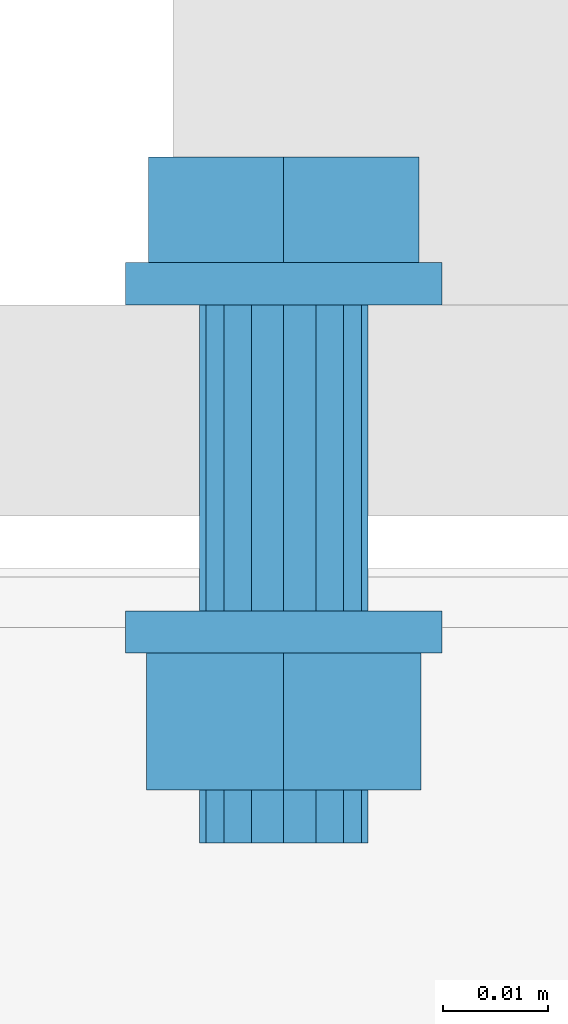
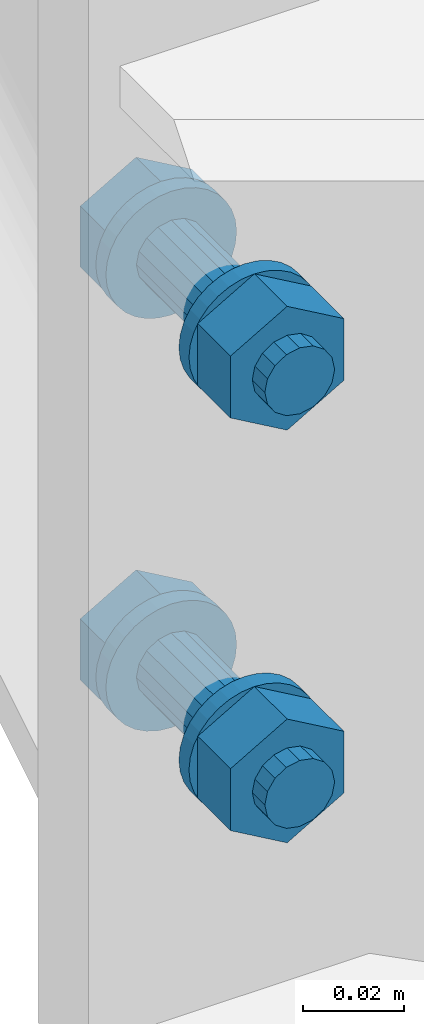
# One storey, part 11 of 21: 2 mechanical fasteners.
"""IFC4X3_ADD2 building model written with IfcOpenShell, lengths in millimetres."""

from ifc_helpers import new_model, entity, si_unit, converted_unit, derived_unit, direction, frame, origin, place, context, project, spatial, faceted_brep, element, save


model = new_model("IFC4X3_ADD2")

# Units and contexts
model_context = context("Model", 3, precision=0.01, world=origin(), true_north=direction((6.123233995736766e-17, 1.0)))
plan_context = context("Plan", 3, precision=0.01, world=origin(), true_north=direction((6.123233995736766e-17, 1.0)))
ifc_project = project(units=[si_unit("LENGTHUNIT", "METRE", prefix="MILLI"), converted_unit("PLANEANGLEUNIT", "DEGREE", entity("IfcPlaneAngleMeasure", 0.017453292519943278), si_unit("PLANEANGLEUNIT", "RADIAN"), dimensions=[0, 0, 0, 0, 0, 0, 0]), si_unit("AREAUNIT", "SQUARE_METRE"), si_unit("VOLUMEUNIT", "CUBIC_METRE"), derived_unit("THERMALTRANSMITTANCEUNIT", [(si_unit("MASSUNIT", "GRAM", prefix="KILO"), 1), (si_unit("THERMODYNAMICTEMPERATUREUNIT", "KELVIN"), -1), (si_unit("TIMEUNIT", "SECOND"), -3)]), derived_unit("USERDEFINED", [(si_unit("MASSUNIT", "GRAM", prefix="KILO"), 1), (si_unit("THERMODYNAMICTEMPERATUREUNIT", "KELVIN"), -1), (si_unit("TIMEUNIT", "SECOND"), -2)]), derived_unit("THERMALRESISTANCEUNIT", [(si_unit("MASSUNIT", "GRAM", prefix="KILO"), -1), (si_unit("TIMEUNIT", "SECOND"), 3), (si_unit("THERMODYNAMICTEMPERATUREUNIT", "KELVIN"), 1)]), si_unit("MASSUNIT", "GRAM", prefix="KILO"), derived_unit("MOMENTOFINERTIAUNIT", [(si_unit("LENGTHUNIT", "METRE"), 4)]), derived_unit("LINEARFORCEUNIT", [(si_unit("MASSUNIT", "GRAM", prefix="KILO"), 1), (si_unit("TIMEUNIT", "SECOND"), -2)]), derived_unit("WARPINGCONSTANTUNIT", [(si_unit("LENGTHUNIT", "METRE"), 6)]), si_unit("PRESSUREUNIT", "PASCAL"), derived_unit("MASSDENSITYUNIT", [(si_unit("MASSUNIT", "GRAM", prefix="KILO"), 1), (si_unit("LENGTHUNIT", "METRE"), -3)]), derived_unit("MODULUSOFELASTICITYUNIT", [(si_unit("MASSUNIT", "GRAM", prefix="KILO"), 1), (si_unit("TIMEUNIT", "SECOND"), -2), (si_unit("LENGTHUNIT", "METRE"), -1)]), derived_unit("THERMALEXPANSIONCOEFFICIENTUNIT", [(si_unit("THERMODYNAMICTEMPERATUREUNIT", "KELVIN"), -1)]), derived_unit("VAPORPERMEABILITYUNIT", [(si_unit("LENGTHUNIT", "METRE"), -1), (si_unit("TIMEUNIT", "SECOND"), 1)]), derived_unit("USERDEFINED", [(si_unit("MASSUNIT", "GRAM", prefix="KILO"), 1), (si_unit("TIMEUNIT", "SECOND"), -3), (si_unit("LENGTHUNIT", "METRE"), 3), (si_unit("ELECTRICCURRENTUNIT", "AMPERE"), -2)]), derived_unit("SPECIFICHEATCAPACITYUNIT", [(si_unit("THERMODYNAMICTEMPERATUREUNIT", "KELVIN"), -1), (si_unit("TIMEUNIT", "SECOND"), -2), (si_unit("LENGTHUNIT", "METRE"), 2)]), derived_unit("THERMALCONDUCTANCEUNIT", [(si_unit("MASSUNIT", "GRAM", prefix="KILO"), 1), (si_unit("THERMODYNAMICTEMPERATUREUNIT", "KELVIN"), -1), (si_unit("TIMEUNIT", "SECOND"), -3), (si_unit("LENGTHUNIT", "METRE"), 1)])], contexts=[model_context, plan_context])

# Site, building, storey
site_placement = place(None, origin())
site = spatial("IfcSite", under=ifc_project, at=site_placement, Name="Default", CompositionType="ELEMENT")
building_placement = place(site_placement, origin())
building = spatial("IfcBuilding", under=site, at=building_placement, Name="Complex structure", CompositionType="ELEMENT")
storey_placement = place(building_placement, frame((0.0, 0.0, 3000.0)))
storey = spatial("IfcBuildingStorey", under=building, at=storey_placement, Name="Level 01", CompositionType="ELEMENT", Elevation=3000.0)

# Mechanical fasteners
mechanical_fastener_1_placement = place(storey_placement, frame((0.0, 0.0, -3000.0)))
element("IfcMechanicalFastener", 1, at=mechanical_fastener_1_placement, inside=storey, ObjectType="Bolt#5", NominalDiameter=16.0, NominalLength=55.0, context=model_context, shape_type="Brep", body=[
    faceted_brep([(-9180.026350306, -1182.866703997, 3703.0), (-9180.026350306, -1186.866703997, 3703.0), (-9180.3145711, -1186.866703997, 3700.07364517), (-9180.3145711, -1182.866703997, 3700.07364517), (-9181.168157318, -1186.866703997, 3697.259748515), (-9181.168157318, -1182.866703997, 3697.259748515), (-9182.554306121, -1186.866703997, 3694.666446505), (-9182.554306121, -1182.866703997, 3694.666446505), (-9184.419748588, -1186.866703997, 3692.393398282), (-9184.419748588, -1182.866703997, 3692.393398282), (-9186.692796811, -1186.866703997, 3690.527955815), (-9186.692796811, -1182.866703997, 3690.527955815), (-9189.28609882, -1186.866703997, 3689.141807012), (-9189.28609882, -1182.866703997, 3689.141807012), (-9192.099995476, -1186.866703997, 3688.288220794), (-9192.099995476, -1182.866703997, 3688.288220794), (-9195.026350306, -1186.866703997, 3688.0), (-9195.026350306, -1182.866703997, 3688.0), (-9197.952705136, -1186.866703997, 3688.288220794), (-9197.952705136, -1182.866703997, 3688.288220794), (-9200.766601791, -1186.866703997, 3689.141807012), (-9200.766601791, -1182.866703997, 3689.141807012), (-9203.359903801, -1186.866703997, 3690.527955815), (-9203.359903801, -1182.866703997, 3690.527955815), (-9205.632952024, -1186.866703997, 3692.393398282), (-9205.632952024, -1182.866703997, 3692.393398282), (-9207.49839449, -1186.866703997, 3694.666446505), (-9207.49839449, -1182.866703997, 3694.666446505), (-9208.884543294, -1186.866703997, 3697.259748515), (-9208.884543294, -1182.866703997, 3697.259748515), (-9209.738129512, -1186.866703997, 3700.07364517), (-9209.738129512, -1182.866703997, 3700.07364517), (-9210.026350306, -1186.866703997, 3703.0), (-9210.026350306, -1182.866703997, 3703.0), (-9209.738129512, -1186.866703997, 3705.92635483), (-9209.738129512, -1182.866703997, 3705.92635483), (-9208.884543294, -1186.866703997, 3708.740251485), (-9208.884543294, -1182.866703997, 3708.740251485), (-9207.49839449, -1186.866703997, 3711.333553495), (-9207.49839449, -1182.866703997, 3711.333553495), (-9205.632952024, -1186.866703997, 3713.606601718), (-9205.632952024, -1182.866703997, 3713.606601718), (-9203.359903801, -1186.866703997, 3715.472044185), (-9203.359903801, -1182.866703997, 3715.472044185), (-9200.766601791, -1186.866703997, 3716.858192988), (-9200.766601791, -1182.866703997, 3716.858192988), (-9197.952705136, -1186.866703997, 3717.711779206), (-9197.952705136, -1182.866703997, 3717.711779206), (-9195.026350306, -1186.866703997, 3718.0), (-9195.026350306, -1182.866703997, 3718.0), (-9192.099995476, -1186.866703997, 3717.711779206), (-9192.099995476, -1182.866703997, 3717.711779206), (-9189.28609882, -1186.866703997, 3716.858192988), (-9189.28609882, -1182.866703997, 3716.858192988), (-9186.692796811, -1186.866703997, 3715.472044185), (-9186.692796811, -1182.866703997, 3715.472044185), (-9184.419748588, -1186.866703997, 3713.606601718), (-9184.419748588, -1182.866703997, 3713.606601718), (-9182.554306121, -1186.866703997, 3711.333553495), (-9182.554306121, -1182.866703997, 3711.333553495), (-9181.168157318, -1186.866703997, 3708.740251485), (-9181.168157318, -1182.866703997, 3708.740251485), (-9180.3145711, -1186.866703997, 3705.92635483), (-9180.3145711, -1182.866703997, 3705.92635483)], [[[0, 1, 2, 3]], [[3, 2, 4, 5]], [[5, 4, 6, 7]], [[7, 6, 8, 9]], [[9, 8, 10, 11]], [[11, 10, 12, 13]], [[13, 12, 14, 15]], [[15, 14, 16, 17]], [[17, 16, 18, 19]], [[19, 18, 20, 21]], [[21, 20, 22, 23]], [[23, 22, 24, 25]], [[25, 24, 26, 27]], [[27, 26, 28, 29]], [[29, 28, 30, 31]], [[31, 30, 32, 33]], [[33, 32, 34, 35]], [[35, 34, 36, 37]], [[37, 36, 38, 39]], [[39, 38, 40, 41]], [[41, 40, 42, 43]], [[43, 42, 44, 45]], [[45, 44, 46, 47]], [[47, 46, 48, 49]], [[49, 48, 50, 51]], [[51, 50, 52, 53]], [[53, 52, 54, 55]], [[55, 54, 56, 57]], [[57, 56, 58, 59]], [[59, 58, 60, 61]], [[61, 60, 62, 63]], [[63, 62, 1, 0]], [[0, 3, 5, 7, 9, 11, 13, 15, 17, 19, 21, 23, 25, 27, 29, 31, 33, 35, 37, 39, 41, 43, 45, 47, 49, 51, 53, 55, 57, 59, 61, 63]], [[1, 62, 60, 58, 56, 54, 52, 50, 48, 46, 44, 42, 40, 38, 36, 34, 32, 30, 28, 26, 24, 22, 20, 18, 16, 14, 12, 10, 8, 6, 4, 2]]]),
    faceted_brep([(-9207.826205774, -1182.866703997, 3695.61), (-9207.826205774, -1172.866703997, 3695.61), (-9195.026350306, -1172.866703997, 3688.22), (-9195.026350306, -1182.866703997, 3688.22), (-9182.226494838, -1172.866703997, 3695.61), (-9182.226494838, -1182.866703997, 3695.61), (-9182.226494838, -1172.866703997, 3710.39), (-9182.226494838, -1182.866703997, 3710.39), (-9195.026350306, -1172.866703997, 3717.78), (-9195.026350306, -1182.866703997, 3717.78), (-9207.826205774, -1172.866703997, 3710.39), (-9207.826205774, -1182.866703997, 3710.39)], [[[0, 1, 2, 3]], [[3, 2, 4, 5]], [[5, 4, 6, 7]], [[7, 6, 8, 9]], [[9, 8, 10, 11]], [[11, 10, 1, 0]], [[4, 2, 1, 10, 8, 6]], [[0, 3, 5, 7, 9, 11]]]),
    faceted_brep([(-9187.026350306, -1186.866703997, 3703.0), (-9187.026350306, -1215.866703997, 3703.0), (-9187.635314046, -1215.866703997, 3699.938532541), (-9187.635314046, -1186.866703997, 3699.938532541), (-9189.369496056, -1215.866703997, 3697.343145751), (-9189.369496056, -1186.866703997, 3697.343145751), (-9191.964882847, -1215.866703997, 3695.60896374), (-9191.964882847, -1186.866703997, 3695.60896374), (-9195.026350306, -1215.866703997, 3695.0), (-9195.026350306, -1186.866703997, 3695.0), (-9198.087817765, -1215.866703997, 3695.60896374), (-9198.087817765, -1186.866703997, 3695.60896374), (-9200.683204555, -1215.866703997, 3697.343145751), (-9200.683204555, -1186.866703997, 3697.343145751), (-9202.417386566, -1215.866703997, 3699.938532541), (-9202.417386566, -1186.866703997, 3699.938532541), (-9203.026350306, -1215.866703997, 3703.0), (-9203.026350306, -1186.866703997, 3703.0), (-9202.417386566, -1215.866703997, 3706.061467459), (-9202.417386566, -1186.866703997, 3706.061467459), (-9200.683204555, -1215.866703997, 3708.656854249), (-9200.683204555, -1186.866703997, 3708.656854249), (-9198.087817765, -1215.866703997, 3710.39103626), (-9198.087817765, -1186.866703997, 3710.39103626), (-9195.026350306, -1215.866703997, 3711.0), (-9195.026350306, -1186.866703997, 3711.0), (-9191.964882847, -1215.866703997, 3710.39103626), (-9191.964882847, -1186.866703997, 3710.39103626), (-9189.369496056, -1215.866703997, 3708.656854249), (-9189.369496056, -1186.866703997, 3708.656854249), (-9187.635314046, -1215.866703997, 3706.061467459), (-9187.635314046, -1186.866703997, 3706.061467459)], [[[0, 1, 2, 3]], [[3, 2, 4, 5]], [[5, 4, 6, 7]], [[7, 6, 8, 9]], [[9, 8, 10, 11]], [[11, 10, 12, 13]], [[13, 12, 14, 15]], [[15, 14, 16, 17]], [[17, 16, 18, 19]], [[19, 18, 20, 21]], [[21, 20, 22, 23]], [[23, 22, 24, 25]], [[25, 24, 26, 27]], [[27, 26, 28, 29]], [[29, 28, 30, 31]], [[31, 30, 1, 0]], [[0, 3, 5, 7, 9, 11, 13, 15, 17, 19, 21, 23, 25, 27, 29, 31]], [[1, 30, 28, 26, 24, 22, 20, 18, 16, 14, 12, 10, 8, 6, 4, 2]]]),
    faceted_brep([(-9180.026350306, -1215.866703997, 3703.0), (-9180.026350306, -1219.866703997, 3703.0), (-9180.3145711, -1219.866703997, 3700.07364517), (-9180.3145711, -1215.866703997, 3700.07364517), (-9181.168157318, -1219.866703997, 3697.259748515), (-9181.168157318, -1215.866703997, 3697.259748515), (-9182.554306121, -1219.866703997, 3694.666446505), (-9182.554306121, -1215.866703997, 3694.666446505), (-9184.419748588, -1219.866703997, 3692.393398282), (-9184.419748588, -1215.866703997, 3692.393398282), (-9186.692796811, -1219.866703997, 3690.527955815), (-9186.692796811, -1215.866703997, 3690.527955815), (-9189.28609882, -1219.866703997, 3689.141807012), (-9189.28609882, -1215.866703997, 3689.141807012), (-9192.099995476, -1219.866703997, 3688.288220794), (-9192.099995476, -1215.866703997, 3688.288220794), (-9195.026350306, -1219.866703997, 3688.0), (-9195.026350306, -1215.866703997, 3688.0), (-9197.952705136, -1219.866703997, 3688.288220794), (-9197.952705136, -1215.866703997, 3688.288220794), (-9200.766601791, -1219.866703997, 3689.141807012), (-9200.766601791, -1215.866703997, 3689.141807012), (-9203.359903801, -1219.866703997, 3690.527955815), (-9203.359903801, -1215.866703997, 3690.527955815), (-9205.632952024, -1219.866703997, 3692.393398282), (-9205.632952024, -1215.866703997, 3692.393398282), (-9207.49839449, -1219.866703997, 3694.666446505), (-9207.49839449, -1215.866703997, 3694.666446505), (-9208.884543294, -1219.866703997, 3697.259748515), (-9208.884543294, -1215.866703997, 3697.259748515), (-9209.738129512, -1219.866703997, 3700.07364517), (-9209.738129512, -1215.866703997, 3700.07364517), (-9210.026350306, -1219.866703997, 3703.0), (-9210.026350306, -1215.866703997, 3703.0), (-9209.738129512, -1219.866703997, 3705.92635483), (-9209.738129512, -1215.866703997, 3705.92635483), (-9208.884543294, -1219.866703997, 3708.740251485), (-9208.884543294, -1215.866703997, 3708.740251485), (-9207.49839449, -1219.866703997, 3711.333553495), (-9207.49839449, -1215.866703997, 3711.333553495), (-9205.632952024, -1219.866703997, 3713.606601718), (-9205.632952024, -1215.866703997, 3713.606601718), (-9203.359903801, -1219.866703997, 3715.472044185), (-9203.359903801, -1215.866703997, 3715.472044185), (-9200.766601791, -1219.866703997, 3716.858192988), (-9200.766601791, -1215.866703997, 3716.858192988), (-9197.952705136, -1219.866703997, 3717.711779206), (-9197.952705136, -1215.866703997, 3717.711779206), (-9195.026350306, -1219.866703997, 3718.0), (-9195.026350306, -1215.866703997, 3718.0), (-9192.099995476, -1219.866703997, 3717.711779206), (-9192.099995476, -1215.866703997, 3717.711779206), (-9189.28609882, -1219.866703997, 3716.858192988), (-9189.28609882, -1215.866703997, 3716.858192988), (-9186.692796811, -1219.866703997, 3715.472044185), (-9186.692796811, -1215.866703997, 3715.472044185), (-9184.419748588, -1219.866703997, 3713.606601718), (-9184.419748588, -1215.866703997, 3713.606601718), (-9182.554306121, -1219.866703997, 3711.333553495), (-9182.554306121, -1215.866703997, 3711.333553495), (-9181.168157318, -1219.866703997, 3708.740251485), (-9181.168157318, -1215.866703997, 3708.740251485), (-9180.3145711, -1219.866703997, 3705.92635483), (-9180.3145711, -1215.866703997, 3705.92635483)], [[[0, 1, 2, 3]], [[3, 2, 4, 5]], [[5, 4, 6, 7]], [[7, 6, 8, 9]], [[9, 8, 10, 11]], [[11, 10, 12, 13]], [[13, 12, 14, 15]], [[15, 14, 16, 17]], [[17, 16, 18, 19]], [[19, 18, 20, 21]], [[21, 20, 22, 23]], [[23, 22, 24, 25]], [[25, 24, 26, 27]], [[27, 26, 28, 29]], [[29, 28, 30, 31]], [[31, 30, 32, 33]], [[33, 32, 34, 35]], [[35, 34, 36, 37]], [[37, 36, 38, 39]], [[39, 38, 40, 41]], [[41, 40, 42, 43]], [[43, 42, 44, 45]], [[45, 44, 46, 47]], [[47, 46, 48, 49]], [[49, 48, 50, 51]], [[51, 50, 52, 53]], [[53, 52, 54, 55]], [[55, 54, 56, 57]], [[57, 56, 58, 59]], [[59, 58, 60, 61]], [[61, 60, 62, 63]], [[63, 62, 1, 0]], [[0, 3, 5, 7, 9, 11, 13, 15, 17, 19, 21, 23, 25, 27, 29, 31, 33, 35, 37, 39, 41, 43, 45, 47, 49, 51, 53, 55, 57, 59, 61, 63]], [[1, 62, 60, 58, 56, 54, 52, 50, 48, 46, 44, 42, 40, 38, 36, 34, 32, 30, 28, 26, 24, 22, 20, 18, 16, 14, 12, 10, 8, 6, 4, 2]]]),
    faceted_brep([(-9208.016731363, -1232.866703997, 3695.5), (-9208.016731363, -1219.866703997, 3695.5), (-9195.026350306, -1219.866703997, 3688.0), (-9195.026350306, -1232.866703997, 3688.0), (-9182.035969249, -1219.866703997, 3695.5), (-9182.035969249, -1232.866703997, 3695.5), (-9182.035969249, -1219.866703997, 3710.5), (-9182.035969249, -1232.866703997, 3710.5), (-9195.026350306, -1219.866703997, 3718.0), (-9195.026350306, -1232.866703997, 3718.0), (-9208.016731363, -1219.866703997, 3710.5), (-9208.016731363, -1232.866703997, 3710.5)], [[[0, 1, 2, 3]], [[3, 2, 4, 5]], [[5, 4, 6, 7]], [[7, 6, 8, 9]], [[9, 8, 10, 11]], [[11, 10, 1, 0]], [[4, 2, 1, 10, 8, 6]], [[0, 3, 5, 7, 9, 11]]]),
    faceted_brep([(-9187.026350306, -1232.866703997, 3703.0), (-9187.026350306, -1237.866703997, 3703.0), (-9187.635314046, -1237.866703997, 3699.938532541), (-9187.635314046, -1232.866703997, 3699.938532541), (-9189.369496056, -1237.866703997, 3697.343145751), (-9189.369496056, -1232.866703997, 3697.343145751), (-9191.964882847, -1237.866703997, 3695.60896374), (-9191.964882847, -1232.866703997, 3695.60896374), (-9195.026350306, -1237.866703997, 3695.0), (-9195.026350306, -1232.866703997, 3695.0), (-9198.087817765, -1237.866703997, 3695.60896374), (-9198.087817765, -1232.866703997, 3695.60896374), (-9200.683204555, -1237.866703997, 3697.343145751), (-9200.683204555, -1232.866703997, 3697.343145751), (-9202.417386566, -1237.866703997, 3699.938532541), (-9202.417386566, -1232.866703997, 3699.938532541), (-9203.026350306, -1237.866703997, 3703.0), (-9203.026350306, -1232.866703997, 3703.0), (-9202.417386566, -1237.866703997, 3706.061467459), (-9202.417386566, -1232.866703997, 3706.061467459), (-9200.683204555, -1237.866703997, 3708.656854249), (-9200.683204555, -1232.866703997, 3708.656854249), (-9198.087817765, -1237.866703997, 3710.39103626), (-9198.087817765, -1232.866703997, 3710.39103626), (-9195.026350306, -1237.866703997, 3711.0), (-9195.026350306, -1232.866703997, 3711.0), (-9191.964882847, -1237.866703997, 3710.39103626), (-9191.964882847, -1232.866703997, 3710.39103626), (-9189.369496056, -1237.866703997, 3708.656854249), (-9189.369496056, -1232.866703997, 3708.656854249), (-9187.635314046, -1237.866703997, 3706.061467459), (-9187.635314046, -1232.866703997, 3706.061467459)], [[[0, 1, 2, 3]], [[3, 2, 4, 5]], [[5, 4, 6, 7]], [[7, 6, 8, 9]], [[9, 8, 10, 11]], [[11, 10, 12, 13]], [[13, 12, 14, 15]], [[15, 14, 16, 17]], [[17, 16, 18, 19]], [[19, 18, 20, 21]], [[21, 20, 22, 23]], [[23, 22, 24, 25]], [[25, 24, 26, 27]], [[27, 26, 28, 29]], [[29, 28, 30, 31]], [[31, 30, 1, 0]], [[0, 3, 5, 7, 9, 11, 13, 15, 17, 19, 21, 23, 25, 27, 29, 31]], [[1, 30, 28, 26, 24, 22, 20, 18, 16, 14, 12, 10, 8, 6, 4, 2]]]),
])
mechanical_fastener_2_placement = place(storey_placement, frame((0.0, 0.0, -3000.0)))
element("IfcMechanicalFastener", 2, at=mechanical_fastener_2_placement, inside=storey, ObjectType="Bolt#6", NominalDiameter=16.0, NominalLength=55.0, context=model_context, shape_type="Brep", body=[
    faceted_brep([(-9180.026350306, -1182.866703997, 3603.0), (-9180.026350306, -1186.866703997, 3603.0), (-9180.3145711, -1186.866703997, 3600.07364517), (-9180.3145711, -1182.866703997, 3600.07364517), (-9181.168157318, -1186.866703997, 3597.259748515), (-9181.168157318, -1182.866703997, 3597.259748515), (-9182.554306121, -1186.866703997, 3594.666446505), (-9182.554306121, -1182.866703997, 3594.666446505), (-9184.419748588, -1186.866703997, 3592.393398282), (-9184.419748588, -1182.866703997, 3592.393398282), (-9186.692796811, -1186.866703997, 3590.527955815), (-9186.692796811, -1182.866703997, 3590.527955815), (-9189.28609882, -1186.866703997, 3589.141807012), (-9189.28609882, -1182.866703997, 3589.141807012), (-9192.099995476, -1186.866703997, 3588.288220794), (-9192.099995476, -1182.866703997, 3588.288220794), (-9195.026350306, -1186.866703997, 3588.0), (-9195.026350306, -1182.866703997, 3588.0), (-9197.952705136, -1186.866703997, 3588.288220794), (-9197.952705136, -1182.866703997, 3588.288220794), (-9200.766601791, -1186.866703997, 3589.141807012), (-9200.766601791, -1182.866703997, 3589.141807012), (-9203.359903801, -1186.866703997, 3590.527955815), (-9203.359903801, -1182.866703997, 3590.527955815), (-9205.632952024, -1186.866703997, 3592.393398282), (-9205.632952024, -1182.866703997, 3592.393398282), (-9207.49839449, -1186.866703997, 3594.666446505), (-9207.49839449, -1182.866703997, 3594.666446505), (-9208.884543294, -1186.866703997, 3597.259748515), (-9208.884543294, -1182.866703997, 3597.259748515), (-9209.738129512, -1186.866703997, 3600.07364517), (-9209.738129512, -1182.866703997, 3600.07364517), (-9210.026350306, -1186.866703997, 3603.0), (-9210.026350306, -1182.866703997, 3603.0), (-9209.738129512, -1186.866703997, 3605.92635483), (-9209.738129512, -1182.866703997, 3605.92635483), (-9208.884543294, -1186.866703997, 3608.740251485), (-9208.884543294, -1182.866703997, 3608.740251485), (-9207.49839449, -1186.866703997, 3611.333553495), (-9207.49839449, -1182.866703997, 3611.333553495), (-9205.632952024, -1186.866703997, 3613.606601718), (-9205.632952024, -1182.866703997, 3613.606601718), (-9203.359903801, -1186.866703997, 3615.472044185), (-9203.359903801, -1182.866703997, 3615.472044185), (-9200.766601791, -1186.866703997, 3616.858192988), (-9200.766601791, -1182.866703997, 3616.858192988), (-9197.952705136, -1186.866703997, 3617.711779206), (-9197.952705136, -1182.866703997, 3617.711779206), (-9195.026350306, -1186.866703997, 3618.0), (-9195.026350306, -1182.866703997, 3618.0), (-9192.099995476, -1186.866703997, 3617.711779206), (-9192.099995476, -1182.866703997, 3617.711779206), (-9189.28609882, -1186.866703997, 3616.858192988), (-9189.28609882, -1182.866703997, 3616.858192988), (-9186.692796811, -1186.866703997, 3615.472044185), (-9186.692796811, -1182.866703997, 3615.472044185), (-9184.419748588, -1186.866703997, 3613.606601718), (-9184.419748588, -1182.866703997, 3613.606601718), (-9182.554306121, -1186.866703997, 3611.333553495), (-9182.554306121, -1182.866703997, 3611.333553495), (-9181.168157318, -1186.866703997, 3608.740251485), (-9181.168157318, -1182.866703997, 3608.740251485), (-9180.3145711, -1186.866703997, 3605.92635483), (-9180.3145711, -1182.866703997, 3605.92635483)], [[[0, 1, 2, 3]], [[3, 2, 4, 5]], [[5, 4, 6, 7]], [[7, 6, 8, 9]], [[9, 8, 10, 11]], [[11, 10, 12, 13]], [[13, 12, 14, 15]], [[15, 14, 16, 17]], [[17, 16, 18, 19]], [[19, 18, 20, 21]], [[21, 20, 22, 23]], [[23, 22, 24, 25]], [[25, 24, 26, 27]], [[27, 26, 28, 29]], [[29, 28, 30, 31]], [[31, 30, 32, 33]], [[33, 32, 34, 35]], [[35, 34, 36, 37]], [[37, 36, 38, 39]], [[39, 38, 40, 41]], [[41, 40, 42, 43]], [[43, 42, 44, 45]], [[45, 44, 46, 47]], [[47, 46, 48, 49]], [[49, 48, 50, 51]], [[51, 50, 52, 53]], [[53, 52, 54, 55]], [[55, 54, 56, 57]], [[57, 56, 58, 59]], [[59, 58, 60, 61]], [[61, 60, 62, 63]], [[63, 62, 1, 0]], [[0, 3, 5, 7, 9, 11, 13, 15, 17, 19, 21, 23, 25, 27, 29, 31, 33, 35, 37, 39, 41, 43, 45, 47, 49, 51, 53, 55, 57, 59, 61, 63]], [[1, 62, 60, 58, 56, 54, 52, 50, 48, 46, 44, 42, 40, 38, 36, 34, 32, 30, 28, 26, 24, 22, 20, 18, 16, 14, 12, 10, 8, 6, 4, 2]]]),
    faceted_brep([(-9207.826205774, -1182.866703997, 3595.61), (-9207.826205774, -1172.866703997, 3595.61), (-9195.026350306, -1172.866703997, 3588.22), (-9195.026350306, -1182.866703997, 3588.22), (-9182.226494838, -1172.866703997, 3595.61), (-9182.226494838, -1182.866703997, 3595.61), (-9182.226494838, -1172.866703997, 3610.39), (-9182.226494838, -1182.866703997, 3610.39), (-9195.026350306, -1172.866703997, 3617.78), (-9195.026350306, -1182.866703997, 3617.78), (-9207.826205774, -1172.866703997, 3610.39), (-9207.826205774, -1182.866703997, 3610.39)], [[[0, 1, 2, 3]], [[3, 2, 4, 5]], [[5, 4, 6, 7]], [[7, 6, 8, 9]], [[9, 8, 10, 11]], [[11, 10, 1, 0]], [[4, 2, 1, 10, 8, 6]], [[0, 3, 5, 7, 9, 11]]]),
    faceted_brep([(-9187.026350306, -1186.866703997, 3603.0), (-9187.026350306, -1215.866703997, 3603.0), (-9187.635314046, -1215.866703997, 3599.938532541), (-9187.635314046, -1186.866703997, 3599.938532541), (-9189.369496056, -1215.866703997, 3597.343145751), (-9189.369496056, -1186.866703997, 3597.343145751), (-9191.964882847, -1215.866703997, 3595.60896374), (-9191.964882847, -1186.866703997, 3595.60896374), (-9195.026350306, -1215.866703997, 3595.0), (-9195.026350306, -1186.866703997, 3595.0), (-9198.087817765, -1215.866703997, 3595.60896374), (-9198.087817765, -1186.866703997, 3595.60896374), (-9200.683204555, -1215.866703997, 3597.343145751), (-9200.683204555, -1186.866703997, 3597.343145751), (-9202.417386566, -1215.866703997, 3599.938532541), (-9202.417386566, -1186.866703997, 3599.938532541), (-9203.026350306, -1215.866703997, 3603.0), (-9203.026350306, -1186.866703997, 3603.0), (-9202.417386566, -1215.866703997, 3606.061467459), (-9202.417386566, -1186.866703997, 3606.061467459), (-9200.683204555, -1215.866703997, 3608.656854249), (-9200.683204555, -1186.866703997, 3608.656854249), (-9198.087817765, -1215.866703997, 3610.39103626), (-9198.087817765, -1186.866703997, 3610.39103626), (-9195.026350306, -1215.866703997, 3611.0), (-9195.026350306, -1186.866703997, 3611.0), (-9191.964882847, -1215.866703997, 3610.39103626), (-9191.964882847, -1186.866703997, 3610.39103626), (-9189.369496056, -1215.866703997, 3608.656854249), (-9189.369496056, -1186.866703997, 3608.656854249), (-9187.635314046, -1215.866703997, 3606.061467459), (-9187.635314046, -1186.866703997, 3606.061467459)], [[[0, 1, 2, 3]], [[3, 2, 4, 5]], [[5, 4, 6, 7]], [[7, 6, 8, 9]], [[9, 8, 10, 11]], [[11, 10, 12, 13]], [[13, 12, 14, 15]], [[15, 14, 16, 17]], [[17, 16, 18, 19]], [[19, 18, 20, 21]], [[21, 20, 22, 23]], [[23, 22, 24, 25]], [[25, 24, 26, 27]], [[27, 26, 28, 29]], [[29, 28, 30, 31]], [[31, 30, 1, 0]], [[0, 3, 5, 7, 9, 11, 13, 15, 17, 19, 21, 23, 25, 27, 29, 31]], [[1, 30, 28, 26, 24, 22, 20, 18, 16, 14, 12, 10, 8, 6, 4, 2]]]),
    faceted_brep([(-9180.026350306, -1215.866703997, 3603.0), (-9180.026350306, -1219.866703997, 3603.0), (-9180.3145711, -1219.866703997, 3600.07364517), (-9180.3145711, -1215.866703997, 3600.07364517), (-9181.168157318, -1219.866703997, 3597.259748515), (-9181.168157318, -1215.866703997, 3597.259748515), (-9182.554306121, -1219.866703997, 3594.666446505), (-9182.554306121, -1215.866703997, 3594.666446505), (-9184.419748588, -1219.866703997, 3592.393398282), (-9184.419748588, -1215.866703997, 3592.393398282), (-9186.692796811, -1219.866703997, 3590.527955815), (-9186.692796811, -1215.866703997, 3590.527955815), (-9189.28609882, -1219.866703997, 3589.141807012), (-9189.28609882, -1215.866703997, 3589.141807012), (-9192.099995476, -1219.866703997, 3588.288220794), (-9192.099995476, -1215.866703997, 3588.288220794), (-9195.026350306, -1219.866703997, 3588.0), (-9195.026350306, -1215.866703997, 3588.0), (-9197.952705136, -1219.866703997, 3588.288220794), (-9197.952705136, -1215.866703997, 3588.288220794), (-9200.766601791, -1219.866703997, 3589.141807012), (-9200.766601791, -1215.866703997, 3589.141807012), (-9203.359903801, -1219.866703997, 3590.527955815), (-9203.359903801, -1215.866703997, 3590.527955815), (-9205.632952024, -1219.866703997, 3592.393398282), (-9205.632952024, -1215.866703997, 3592.393398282), (-9207.49839449, -1219.866703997, 3594.666446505), (-9207.49839449, -1215.866703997, 3594.666446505), (-9208.884543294, -1219.866703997, 3597.259748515), (-9208.884543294, -1215.866703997, 3597.259748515), (-9209.738129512, -1219.866703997, 3600.07364517), (-9209.738129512, -1215.866703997, 3600.07364517), (-9210.026350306, -1219.866703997, 3603.0), (-9210.026350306, -1215.866703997, 3603.0), (-9209.738129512, -1219.866703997, 3605.92635483), (-9209.738129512, -1215.866703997, 3605.92635483), (-9208.884543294, -1219.866703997, 3608.740251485), (-9208.884543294, -1215.866703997, 3608.740251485), (-9207.49839449, -1219.866703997, 3611.333553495), (-9207.49839449, -1215.866703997, 3611.333553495), (-9205.632952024, -1219.866703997, 3613.606601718), (-9205.632952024, -1215.866703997, 3613.606601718), (-9203.359903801, -1219.866703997, 3615.472044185), (-9203.359903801, -1215.866703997, 3615.472044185), (-9200.766601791, -1219.866703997, 3616.858192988), (-9200.766601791, -1215.866703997, 3616.858192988), (-9197.952705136, -1219.866703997, 3617.711779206), (-9197.952705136, -1215.866703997, 3617.711779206), (-9195.026350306, -1219.866703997, 3618.0), (-9195.026350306, -1215.866703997, 3618.0), (-9192.099995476, -1219.866703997, 3617.711779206), (-9192.099995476, -1215.866703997, 3617.711779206), (-9189.28609882, -1219.866703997, 3616.858192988), (-9189.28609882, -1215.866703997, 3616.858192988), (-9186.692796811, -1219.866703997, 3615.472044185), (-9186.692796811, -1215.866703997, 3615.472044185), (-9184.419748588, -1219.866703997, 3613.606601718), (-9184.419748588, -1215.866703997, 3613.606601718), (-9182.554306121, -1219.866703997, 3611.333553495), (-9182.554306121, -1215.866703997, 3611.333553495), (-9181.168157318, -1219.866703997, 3608.740251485), (-9181.168157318, -1215.866703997, 3608.740251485), (-9180.3145711, -1219.866703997, 3605.92635483), (-9180.3145711, -1215.866703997, 3605.92635483)], [[[0, 1, 2, 3]], [[3, 2, 4, 5]], [[5, 4, 6, 7]], [[7, 6, 8, 9]], [[9, 8, 10, 11]], [[11, 10, 12, 13]], [[13, 12, 14, 15]], [[15, 14, 16, 17]], [[17, 16, 18, 19]], [[19, 18, 20, 21]], [[21, 20, 22, 23]], [[23, 22, 24, 25]], [[25, 24, 26, 27]], [[27, 26, 28, 29]], [[29, 28, 30, 31]], [[31, 30, 32, 33]], [[33, 32, 34, 35]], [[35, 34, 36, 37]], [[37, 36, 38, 39]], [[39, 38, 40, 41]], [[41, 40, 42, 43]], [[43, 42, 44, 45]], [[45, 44, 46, 47]], [[47, 46, 48, 49]], [[49, 48, 50, 51]], [[51, 50, 52, 53]], [[53, 52, 54, 55]], [[55, 54, 56, 57]], [[57, 56, 58, 59]], [[59, 58, 60, 61]], [[61, 60, 62, 63]], [[63, 62, 1, 0]], [[0, 3, 5, 7, 9, 11, 13, 15, 17, 19, 21, 23, 25, 27, 29, 31, 33, 35, 37, 39, 41, 43, 45, 47, 49, 51, 53, 55, 57, 59, 61, 63]], [[1, 62, 60, 58, 56, 54, 52, 50, 48, 46, 44, 42, 40, 38, 36, 34, 32, 30, 28, 26, 24, 22, 20, 18, 16, 14, 12, 10, 8, 6, 4, 2]]]),
    faceted_brep([(-9208.016731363, -1232.866703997, 3595.5), (-9208.016731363, -1219.866703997, 3595.5), (-9195.026350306, -1219.866703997, 3588.0), (-9195.026350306, -1232.866703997, 3588.0), (-9182.035969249, -1219.866703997, 3595.5), (-9182.035969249, -1232.866703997, 3595.5), (-9182.035969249, -1219.866703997, 3610.5), (-9182.035969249, -1232.866703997, 3610.5), (-9195.026350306, -1219.866703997, 3618.0), (-9195.026350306, -1232.866703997, 3618.0), (-9208.016731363, -1219.866703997, 3610.5), (-9208.016731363, -1232.866703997, 3610.5)], [[[0, 1, 2, 3]], [[3, 2, 4, 5]], [[5, 4, 6, 7]], [[7, 6, 8, 9]], [[9, 8, 10, 11]], [[11, 10, 1, 0]], [[4, 2, 1, 10, 8, 6]], [[0, 3, 5, 7, 9, 11]]]),
    faceted_brep([(-9187.026350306, -1232.866703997, 3603.0), (-9187.026350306, -1237.866703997, 3603.0), (-9187.635314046, -1237.866703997, 3599.938532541), (-9187.635314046, -1232.866703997, 3599.938532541), (-9189.369496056, -1237.866703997, 3597.343145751), (-9189.369496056, -1232.866703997, 3597.343145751), (-9191.964882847, -1237.866703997, 3595.60896374), (-9191.964882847, -1232.866703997, 3595.60896374), (-9195.026350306, -1237.866703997, 3595.0), (-9195.026350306, -1232.866703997, 3595.0), (-9198.087817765, -1237.866703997, 3595.60896374), (-9198.087817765, -1232.866703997, 3595.60896374), (-9200.683204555, -1237.866703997, 3597.343145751), (-9200.683204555, -1232.866703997, 3597.343145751), (-9202.417386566, -1237.866703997, 3599.938532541), (-9202.417386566, -1232.866703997, 3599.938532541), (-9203.026350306, -1237.866703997, 3603.0), (-9203.026350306, -1232.866703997, 3603.0), (-9202.417386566, -1237.866703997, 3606.061467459), (-9202.417386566, -1232.866703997, 3606.061467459), (-9200.683204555, -1237.866703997, 3608.656854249), (-9200.683204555, -1232.866703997, 3608.656854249), (-9198.087817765, -1237.866703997, 3610.39103626), (-9198.087817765, -1232.866703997, 3610.39103626), (-9195.026350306, -1237.866703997, 3611.0), (-9195.026350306, -1232.866703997, 3611.0), (-9191.964882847, -1237.866703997, 3610.39103626), (-9191.964882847, -1232.866703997, 3610.39103626), (-9189.369496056, -1237.866703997, 3608.656854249), (-9189.369496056, -1232.866703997, 3608.656854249), (-9187.635314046, -1237.866703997, 3606.061467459), (-9187.635314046, -1232.866703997, 3606.061467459)], [[[0, 1, 2, 3]], [[3, 2, 4, 5]], [[5, 4, 6, 7]], [[7, 6, 8, 9]], [[9, 8, 10, 11]], [[11, 10, 12, 13]], [[13, 12, 14, 15]], [[15, 14, 16, 17]], [[17, 16, 18, 19]], [[19, 18, 20, 21]], [[21, 20, 22, 23]], [[23, 22, 24, 25]], [[25, 24, 26, 27]], [[27, 26, 28, 29]], [[29, 28, 30, 31]], [[31, 30, 1, 0]], [[0, 3, 5, 7, 9, 11, 13, 15, 17, 19, 21, 23, 25, 27, 29, 31]], [[1, 30, 28, 26, 24, 22, 20, 18, 16, 14, 12, 10, 8, 6, 4, 2]]]),
])

save(model, "model.ifc")
